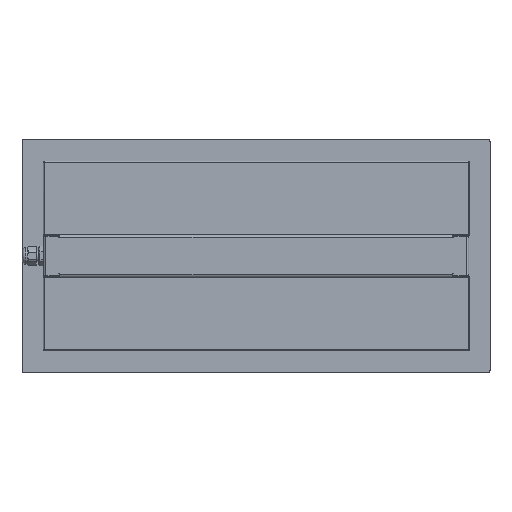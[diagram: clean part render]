
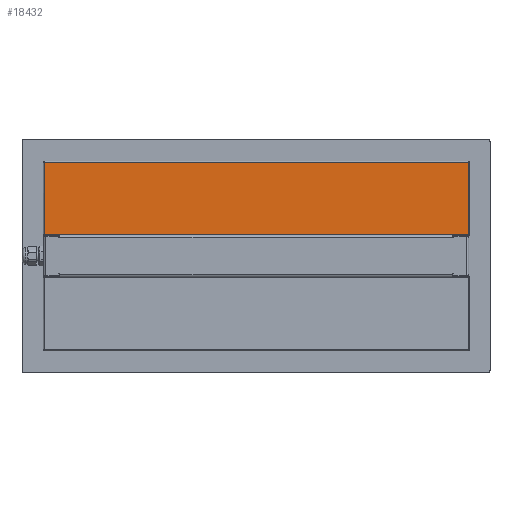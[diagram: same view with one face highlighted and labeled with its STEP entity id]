
A CAD part, top view. The second image highlights one B-rep face of the part: STEP entity #18432.
In plain terms, the highlighted planar face has unit normal (0, 0, 1).
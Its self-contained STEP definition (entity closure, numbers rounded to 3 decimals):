
#1735=FACE_OUTER_BOUND('',#3018,.T.);
#3018=EDGE_LOOP('',(#12775,#12776,#12777,#12778));
#4592=LINE('',#28723,#5916);
#4595=LINE('',#28737,#5919);
#4606=LINE('',#28777,#5930);
#4607=LINE('',#28778,#5931);
#5916=VECTOR('',#22407,10.);
#5919=VECTOR('',#22420,10.);
#5930=VECTOR('',#22449,10.);
#5931=VECTOR('',#22450,10.);
#8208=VERTEX_POINT('',#28720);
#8209=VERTEX_POINT('',#28722);
#8211=VERTEX_POINT('',#28727);
#8215=VERTEX_POINT('',#28735);
#9945=EDGE_CURVE('',#8209,#8208,#4592,.T.);
#9952=EDGE_CURVE('',#8211,#8215,#4595,.T.);
#9968=EDGE_CURVE('',#8215,#8209,#4606,.T.);
#9969=EDGE_CURVE('',#8208,#8211,#4607,.T.);
#12775=ORIENTED_EDGE('',*,*,#9968,.T.);
#12776=ORIENTED_EDGE('',*,*,#9945,.T.);
#12777=ORIENTED_EDGE('',*,*,#9969,.T.);
#12778=ORIENTED_EDGE('',*,*,#9952,.T.);
#18022=PLANE('',#19789);
#18432=ADVANCED_FACE('',(#1735),#18022,.T.);
#19789=AXIS2_PLACEMENT_3D('',#28776,#22447,#22448);
#22407=DIRECTION('',(0.,1.,0.));
#22420=DIRECTION('',(0.,-1.,0.));
#22447=DIRECTION('center_axis',(0.,0.,
1.));
#22448=DIRECTION('ref_axis',(-1.,0.,0.));
#22449=DIRECTION('',(1.,0.,0.));
#22450=DIRECTION('',(-1.,0.,0.));
#28720=CARTESIAN_POINT('',(226.7,100.2,7.));
#28722=CARTESIAN_POINT('',(226.7,23.2,7.));
#28723=CARTESIAN_POINT('',(226.7,41.95,7.));
#28727=CARTESIAN_POINT('',(-226.7,100.2,7.));
#28735=CARTESIAN_POINT('',(-226.7,23.2,7.));
#28737=CARTESIAN_POINT('',(-226.7,81.45,7.));
#28776=CARTESIAN_POINT('Origin',(0.,61.7,7.));
#28777=CARTESIAN_POINT('',(113.35,23.2,7.));
#28778=CARTESIAN_POINT('',(113.35,100.2,7.));
